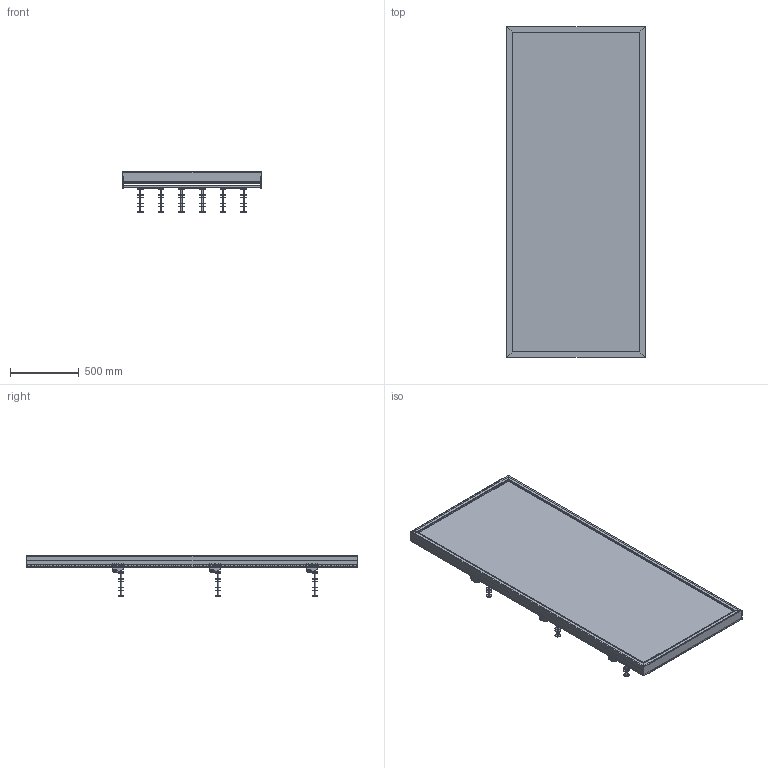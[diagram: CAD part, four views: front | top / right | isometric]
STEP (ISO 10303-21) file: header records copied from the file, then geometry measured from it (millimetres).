
FILE_DESCRIPTION (( 'STEP AP203' ), '1' );
FILE_NAME ('Padel Racket Display 1005mm - 3 Tier Straight Holder.STEP', '2026-03-30T11:35:42', ( '' ), ( '' ), 'SwSTEP 2.0', 'SolidWorks 2025', '' );
FILE_SCHEMA (( 'CONFIG_CONTROL_DESIGN' ));
Length unit declared in the file: millimetre
Products named in the file (7): 369-01-GA01; 0001-31-SA26 - 1005W Rear support Bar_Assem8; 0001-31-SA26 - 1005W Rear support Bar.STEP; 0001-31-GA10 - 1005W Slotted upbright; 0001-31-103.STEP; Padel Racket Display 1005mm - 3 Tier Straight Holder; 0001-31-131.STEP
Assembly tree (20 placements, depth 4):
  Padel Racket Display 1005mm - 3 Tier Straight Holder
    0001-31-GA10 - 1005W Slotted upbright
    0001-31-SA26 - 1005W Rear support Bar_Assem8  x3
      0001-31-SA26 - 1005W Rear support Bar.STEP
        0001-31-103.STEP  x2
        0001-31-131.STEP
    369-01-GA01  x12
Bounding box: 1005.74 x 2400 x 290.15 mm (x, y, z)
Volume: 9546228.7 mm3; surface area: 13323681.4 mm2
Topology: 195 solids, 195 shells, 2164 faces, 5670 edges, 3748 vertices
Faces by surface type: plane 1270, cylinder 894
Entity records: 29648 total; most frequent: CARTESIAN_POINT 5421, ORIENTED_EDGE 5210, DIRECTION 4251, EDGE_CURVE 2605, LINE 2355, VECTOR 2355, VERTEX_POINT 1734, EDGE_LOOP 961
